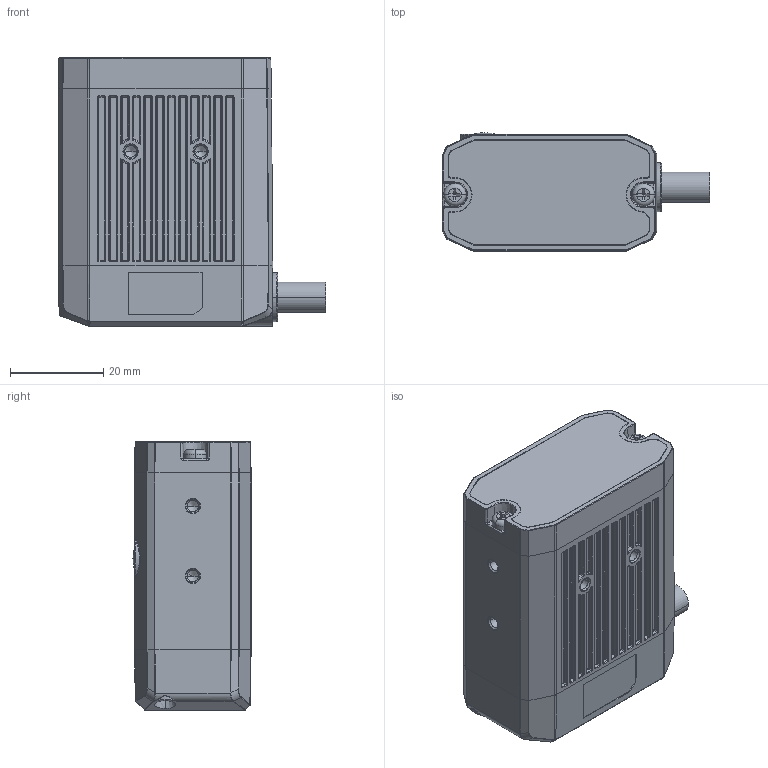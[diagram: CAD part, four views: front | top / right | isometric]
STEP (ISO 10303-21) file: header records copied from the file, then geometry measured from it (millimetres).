
FILE_DESCRIPTION((''),'2;1');
FILE_NAME('ID2000-AC_ASM-AC','2021-10-20T17:08:06',('lizhenhao5'),(''),'CREO PARAMETRIC BY PTC INC, 2020044','CREO PARAMETRIC BY PTC INC, 2020044','');
FILE_SCHEMA(('CONFIG_CONTROL_DESIGN'));
Products named in the file (1): ID2000-AC_ASM-AC
Bounding box: 57.3 x 25.35 x 57.6 mm (x, y, z)
Volume: 8195.7 mm3; surface area: 19817.8 mm2
Topology: 6 solids, 27 shells, 1692 faces, 3927 edges, 2299 vertices
Faces by surface type: cylinder 588, plane 497, bspline 319, torus 145, cone 101, sphere 42
Entity records: 70756 total; most frequent: CARTESIAN_POINT 34721, ORIENTED_EDGE 7732, DIRECTION 7080, EDGE_CURVE 3899, AXIS2_PLACEMENT_3D 2679, VERTEX_POINT 2299, EDGE_LOOP 1767, VECTOR 1722
